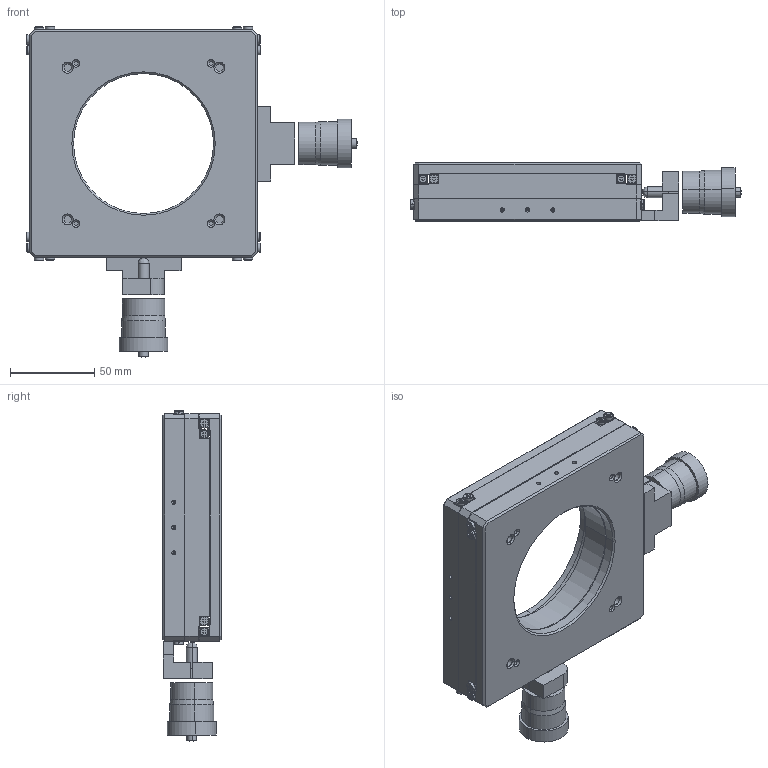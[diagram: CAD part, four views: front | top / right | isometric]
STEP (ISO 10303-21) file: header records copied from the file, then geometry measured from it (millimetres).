
FILE_DESCRIPTION (( 'STEP AP203' ), '1' );
FILE_NAME ('PT-XY135.STEP', '2022-04-23T09:26:46', ( '' ), ( '' ), 'SwSTEP 2.0', 'SolidWorks 2017', '' );
FILE_SCHEMA (( 'CONFIG_CONTROL_DESIGN' ));
Length unit declared in the file: millimetre
Products named in the file (1): PT-XY135
Bounding box: 196.06 x 34.5 x 196.06 mm (x, y, z)
Surface area: 122901.8 mm2 (no closed solid volume)
Topology: 0 solids, 17 shells, 800 faces, 2295 edges, 1488 vertices
Faces by surface type: plane 558, cylinder 182, cone 54, bspline 6
Entity records: 25863 total; most frequent: CARTESIAN_POINT 4938, DIRECTION 4323, ORIENTED_EDGE 4157, EDGE_CURVE 2295, VECTOR 1681, LINE 1681, VERTEX_POINT 1488, AXIS2_PLACEMENT_3D 1321
